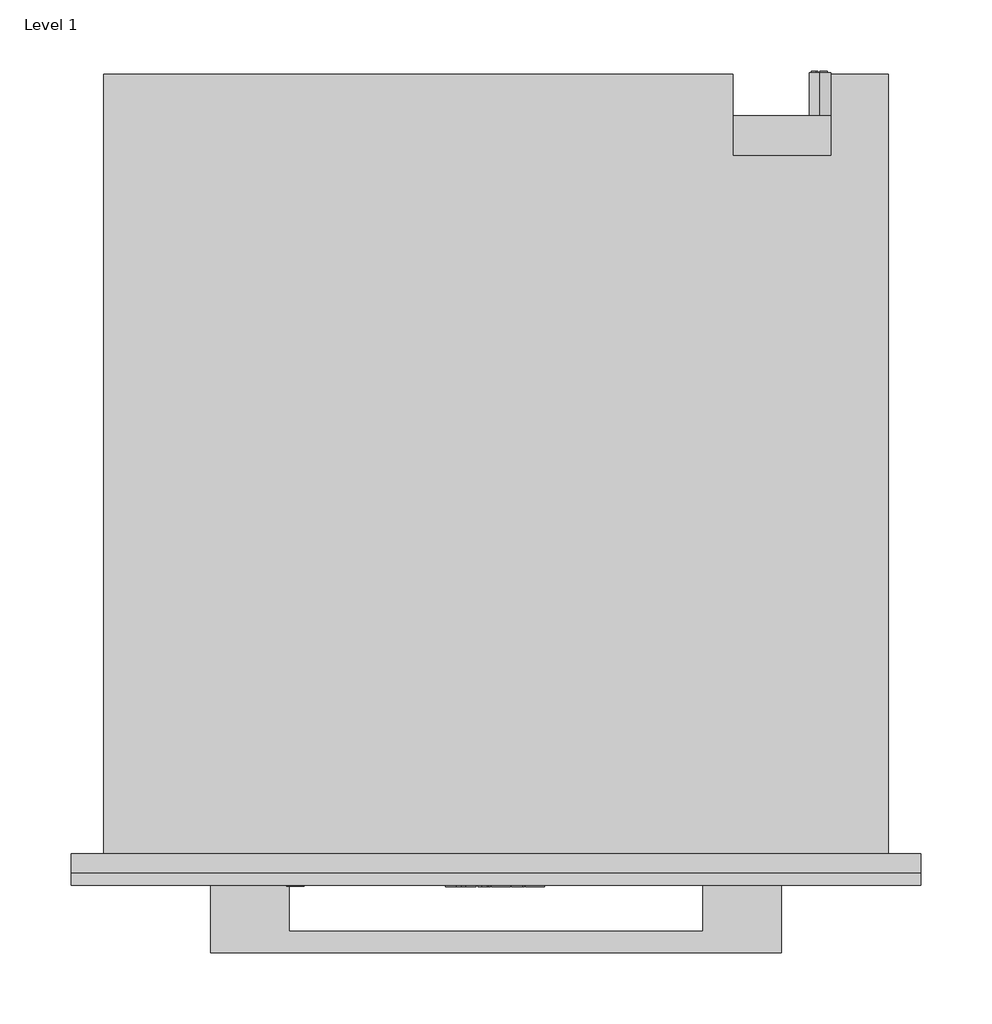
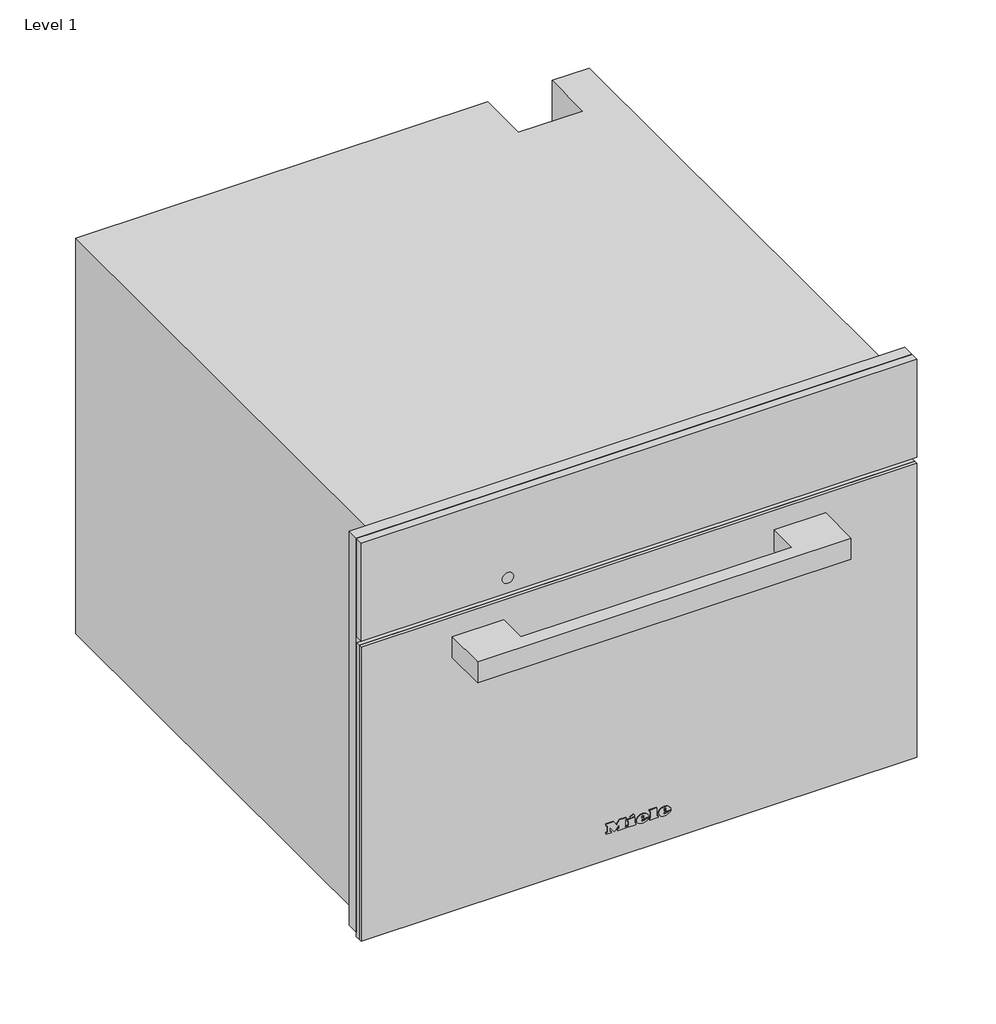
# One storey: 1 proxy.
"""IFC4 building model written with IfcOpenShell, lengths in millimetres."""

from ifc_helpers import new_model, si_unit, origin, place, context, project, spatial, transform, mapped, element, save
from components import specialty_equipment_21fb220e

model = new_model("IFC4")

# Units and contexts
model_context = context("Model", 3, world=origin())
ifc_project = project(units=[si_unit("LENGTHUNIT", "METRE", prefix="MILLI")], contexts=[model_context])

# Site, building, storey
site = spatial("IfcSite", under=ifc_project)
building = spatial("IfcBuilding", under=site)
storey = spatial("IfcBuildingStorey", under=building, Name="Level 1", Elevation=0.0)

# Proxy
placement = place(None, origin())
specialty_equipment_shape = specialty_equipment_21fb220e(model_context)
element("IfcBuildingElementProxy", 1, Name="11146880_IB_DGC7640_OBSW : 23764022_IB_11146880_DGC7640_OBSW", ObjectType="11146880_IB_DGC7640_OBSW : 23764022_IB_11146880_DGC7640_OBSW", at=placement, inside=storey, context=model_context, shape_type="MappedRepresentation", body=[
    mapped(specialty_equipment_shape, transform((0.0, 0.0, 0.0), x_axis=(1.0, 0.0, 0.0), y_axis=(0.0, 1.0, 0.0), z_axis=(0.0, 0.0, 1.0))),
])

save(model, "model.ifc")
